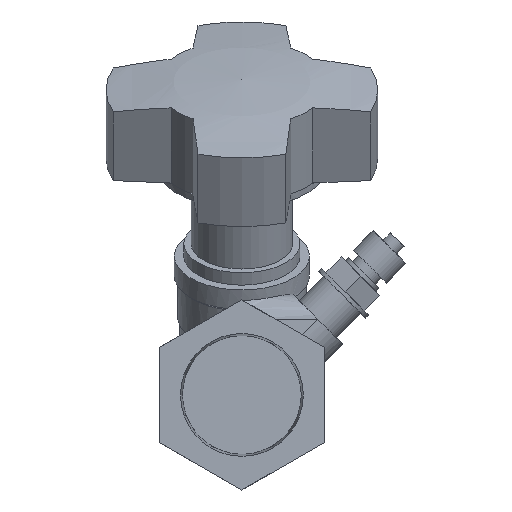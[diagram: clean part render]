
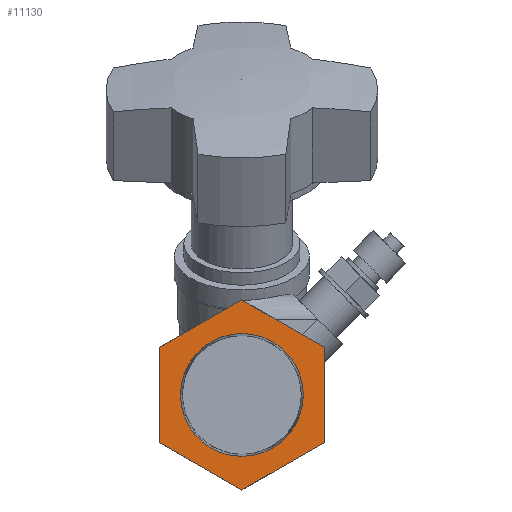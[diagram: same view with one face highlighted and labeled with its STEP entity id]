
A CAD part, left-side view. The second image highlights one B-rep face of the part: STEP entity #11130.
In plain terms, the highlighted planar face has unit normal (-1, 0, 0).
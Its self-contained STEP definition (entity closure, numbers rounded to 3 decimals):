
#9646 = PLANE('',#9647);
#9647 = AXIS2_PLACEMENT_3D('',#9648,#9649,#9650);
#9648 = CARTESIAN_POINT('',(0.,-0.83,1.438));
#9649 = DIRECTION('',(0.,-0.5,0.866));
#9650 = DIRECTION('',(0.,-0.866,-0.5));
#9719 = PLANE('',#9720);
#9720 = AXIS2_PLACEMENT_3D('',#9721,#9722,#9723);
#9721 = CARTESIAN_POINT('',(0.,0.,1.917));
#9722 = DIRECTION('',(0.,0.5,0.866));
#9723 = DIRECTION('',(0.,-0.866,0.5));
#9769 = PLANE('',#9770);
#9770 = AXIS2_PLACEMENT_3D('',#9771,#9772,#9773);
#9771 = CARTESIAN_POINT('',(0.,0.83,1.438));
#9772 = DIRECTION('',(0.,1.,0.));
#9773 = DIRECTION('',(0.,-0.,1.));
#9819 = PLANE('',#9820);
#9820 = AXIS2_PLACEMENT_3D('',#9821,#9822,#9823);
#9821 = CARTESIAN_POINT('',(0.,0.83,0.479));
#9822 = DIRECTION('',(0.,0.5,-0.866));
#9823 = DIRECTION('',(0.,0.866,0.5));
#9869 = PLANE('',#9870);
#9870 = AXIS2_PLACEMENT_3D('',#9871,#9872,#9873);
#9871 = CARTESIAN_POINT('',(0.,0.,0.));
#9872 = DIRECTION('',(0.,-0.5,-0.866));
#9873 = DIRECTION('',(0.,0.866,-0.5));
#9917 = PLANE('',#9918);
#9918 = AXIS2_PLACEMENT_3D('',#9919,#9920,#9921);
#9919 = CARTESIAN_POINT('',(0.,-0.83,0.479));
#9920 = DIRECTION('',(0.,-1.,0.));
#9921 = DIRECTION('',(0.,0.,-1.));
#10311 = VERTEX_POINT('',#10312);
#10312 = CARTESIAN_POINT('',(0.,0.83,0.479));
#10333 = EDGE_CURVE('',#10311,#10334,#10336,.T.);
#10334 = VERTEX_POINT('',#10335);
#10335 = CARTESIAN_POINT('',(0.,0.83,1.438));
#10336 = SURFACE_CURVE('',#10337,(#10341,#10348),.PCURVE_S1.);
#10337 = LINE('',#10338,#10339);
#10338 = CARTESIAN_POINT('',(0.,0.83,0.479));
#10339 = VECTOR('',#10340,1.);
#10340 = DIRECTION('',(0.,0.,1.));
#10341 = PCURVE('',#9769,#10342);
#10342 = DEFINITIONAL_REPRESENTATION('',(#10343),#10347);
#10343 = LINE('',#10344,#10345);
#10344 = CARTESIAN_POINT('',(-0.958,0.));
#10345 = VECTOR('',#10346,1.);
#10346 = DIRECTION('',(1.,0.));
#10347 = ( GEOMETRIC_REPRESENTATION_CONTEXT(2) 
PARAMETRIC_REPRESENTATION_CONTEXT() REPRESENTATION_CONTEXT('2D SPACE',''
  ) );
#10348 = PCURVE('',#10349,#10354);
#10349 = PLANE('',#10350);
#10350 = AXIS2_PLACEMENT_3D('',#10351,#10352,#10353);
#10351 = CARTESIAN_POINT('',(0.,0.,0.958));
#10352 = DIRECTION('',(1.,0.,0.));
#10353 = DIRECTION('',(0.,0.,-1.));
#10354 = DEFINITIONAL_REPRESENTATION('',(#10355),#10359);
#10355 = LINE('',#10356,#10357);
#10356 = CARTESIAN_POINT('',(0.479,0.83));
#10357 = VECTOR('',#10358,1.);
#10358 = DIRECTION('',(-1.,0.));
#10359 = ( GEOMETRIC_REPRESENTATION_CONTEXT(2) 
PARAMETRIC_REPRESENTATION_CONTEXT() REPRESENTATION_CONTEXT('2D SPACE',''
  ) );
#10387 = VERTEX_POINT('',#10388);
#10388 = CARTESIAN_POINT('',(0.,0.,0.));
#10409 = EDGE_CURVE('',#10387,#10311,#10410,.T.);
#10410 = SURFACE_CURVE('',#10411,(#10415,#10422),.PCURVE_S1.);
#10411 = LINE('',#10412,#10413);
#10412 = CARTESIAN_POINT('',(0.,0.,0.));
#10413 = VECTOR('',#10414,1.);
#10414 = DIRECTION('',(0.,0.866,0.5));
#10415 = PCURVE('',#9819,#10416);
#10416 = DEFINITIONAL_REPRESENTATION('',(#10417),#10421);
#10417 = LINE('',#10418,#10419);
#10418 = CARTESIAN_POINT('',(-0.958,0.));
#10419 = VECTOR('',#10420,1.);
#10420 = DIRECTION('',(1.,0.));
#10421 = ( GEOMETRIC_REPRESENTATION_CONTEXT(2) 
PARAMETRIC_REPRESENTATION_CONTEXT() REPRESENTATION_CONTEXT('2D SPACE',''
  ) );
#10422 = PCURVE('',#10349,#10423);
#10423 = DEFINITIONAL_REPRESENTATION('',(#10424),#10428);
#10424 = LINE('',#10425,#10426);
#10425 = CARTESIAN_POINT('',(0.958,0.));
#10426 = VECTOR('',#10427,1.);
#10427 = DIRECTION('',(-0.5,0.866));
#10428 = ( GEOMETRIC_REPRESENTATION_CONTEXT(2) 
PARAMETRIC_REPRESENTATION_CONTEXT() REPRESENTATION_CONTEXT('2D SPACE',''
  ) );
#10436 = VERTEX_POINT('',#10437);
#10437 = CARTESIAN_POINT('',(0.,-0.83,0.479));
#10458 = EDGE_CURVE('',#10436,#10387,#10459,.T.);
#10459 = SURFACE_CURVE('',#10460,(#10464,#10471),.PCURVE_S1.);
#10460 = LINE('',#10461,#10462);
#10461 = CARTESIAN_POINT('',(0.,-0.83,0.479));
#10462 = VECTOR('',#10463,1.);
#10463 = DIRECTION('',(0.,0.866,-0.5));
#10464 = PCURVE('',#9869,#10465);
#10465 = DEFINITIONAL_REPRESENTATION('',(#10466),#10470);
#10466 = LINE('',#10467,#10468);
#10467 = CARTESIAN_POINT('',(-0.958,0.));
#10468 = VECTOR('',#10469,1.);
#10469 = DIRECTION('',(1.,0.));
#10470 = ( GEOMETRIC_REPRESENTATION_CONTEXT(2) 
PARAMETRIC_REPRESENTATION_CONTEXT() REPRESENTATION_CONTEXT('2D SPACE',''
  ) );
#10471 = PCURVE('',#10349,#10472);
#10472 = DEFINITIONAL_REPRESENTATION('',(#10473),#10477);
#10473 = LINE('',#10474,#10475);
#10474 = CARTESIAN_POINT('',(0.479,-0.83));
#10475 = VECTOR('',#10476,1.);
#10476 = DIRECTION('',(0.5,0.866));
#10477 = ( GEOMETRIC_REPRESENTATION_CONTEXT(2) 
PARAMETRIC_REPRESENTATION_CONTEXT() REPRESENTATION_CONTEXT('2D SPACE',''
  ) );
#10777 = CONICAL_SURFACE('',#10778,0.609,0.031);
#10778 = AXIS2_PLACEMENT_3D('',#10779,#10780,#10781);
#10779 = CARTESIAN_POINT('',(39.313,0.,0.958));
#10780 = DIRECTION('',(1.,0.,0.));
#10781 = DIRECTION('',(0.,-1.,0.));
#10792 = EDGE_CURVE('',#10793,#10793,#10795,.T.);
#10793 = VERTEX_POINT('',#10794);
#10794 = CARTESIAN_POINT('',(0.,0.619,
    0.958));
#10795 = SURFACE_CURVE('',#10796,(#10801,#10808),.PCURVE_S1.);
#10796 = CIRCLE('',#10797,0.619);
#10797 = AXIS2_PLACEMENT_3D('',#10798,#10799,#10800);
#10798 = CARTESIAN_POINT('',(0.,0.,0.958));
#10799 = DIRECTION('',(1.,0.,0.));
#10800 = DIRECTION('',(-0.,1.,0.));
#10801 = PCURVE('',#10777,#10802);
#10802 = DEFINITIONAL_REPRESENTATION('',(#10803),#10807);
#10803 = LINE('',#10804,#10805);
#10804 = CARTESIAN_POINT('',(0.,-39.313));
#10805 = VECTOR('',#10806,1.);
#10806 = DIRECTION('',(1.,0.));
#10807 = ( GEOMETRIC_REPRESENTATION_CONTEXT(2) 
PARAMETRIC_REPRESENTATION_CONTEXT() REPRESENTATION_CONTEXT('2D SPACE',''
  ) );
#10808 = PCURVE('',#10349,#10809);
#10809 = DEFINITIONAL_REPRESENTATION('',(#10810),#10814);
#10810 = CIRCLE('',#10811,0.619);
#10811 = AXIS2_PLACEMENT_2D('',#10812,#10813);
#10812 = CARTESIAN_POINT('',(0.,0.));
#10813 = DIRECTION('',(0.,1.));
#10814 = ( GEOMETRIC_REPRESENTATION_CONTEXT(2) 
PARAMETRIC_REPRESENTATION_CONTEXT() REPRESENTATION_CONTEXT('2D SPACE',''
  ) );
#11011 = VERTEX_POINT('',#11012);
#11012 = CARTESIAN_POINT('',(0.,-0.83,1.438));
#11033 = EDGE_CURVE('',#11011,#10436,#11034,.T.);
#11034 = SURFACE_CURVE('',#11035,(#11039,#11046),.PCURVE_S1.);
#11035 = LINE('',#11036,#11037);
#11036 = CARTESIAN_POINT('',(0.,-0.83,1.438));
#11037 = VECTOR('',#11038,1.);
#11038 = DIRECTION('',(0.,0.,-1.));
#11039 = PCURVE('',#9917,#11040);
#11040 = DEFINITIONAL_REPRESENTATION('',(#11041),#11045);
#11041 = LINE('',#11042,#11043);
#11042 = CARTESIAN_POINT('',(-0.958,0.));
#11043 = VECTOR('',#11044,1.);
#11044 = DIRECTION('',(1.,0.));
#11045 = ( GEOMETRIC_REPRESENTATION_CONTEXT(2) 
PARAMETRIC_REPRESENTATION_CONTEXT() REPRESENTATION_CONTEXT('2D SPACE',''
  ) );
#11046 = PCURVE('',#10349,#11047);
#11047 = DEFINITIONAL_REPRESENTATION('',(#11048),#11052);
#11048 = LINE('',#11049,#11050);
#11049 = CARTESIAN_POINT('',(-0.479,-0.83));
#11050 = VECTOR('',#11051,1.);
#11051 = DIRECTION('',(1.,0.));
#11052 = ( GEOMETRIC_REPRESENTATION_CONTEXT(2) 
PARAMETRIC_REPRESENTATION_CONTEXT() REPRESENTATION_CONTEXT('2D SPACE',''
  ) );
#11060 = VERTEX_POINT('',#11061);
#11061 = CARTESIAN_POINT('',(0.,0.,1.917));
#11082 = EDGE_CURVE('',#11060,#11011,#11083,.T.);
#11083 = SURFACE_CURVE('',#11084,(#11088,#11095),.PCURVE_S1.);
#11084 = LINE('',#11085,#11086);
#11085 = CARTESIAN_POINT('',(0.,0.,1.917));
#11086 = VECTOR('',#11087,1.);
#11087 = DIRECTION('',(0.,-0.866,-0.5));
#11088 = PCURVE('',#9646,#11089);
#11089 = DEFINITIONAL_REPRESENTATION('',(#11090),#11094);
#11090 = LINE('',#11091,#11092);
#11091 = CARTESIAN_POINT('',(-0.958,0.));
#11092 = VECTOR('',#11093,1.);
#11093 = DIRECTION('',(1.,0.));
#11094 = ( GEOMETRIC_REPRESENTATION_CONTEXT(2) 
PARAMETRIC_REPRESENTATION_CONTEXT() REPRESENTATION_CONTEXT('2D SPACE',''
  ) );
#11095 = PCURVE('',#10349,#11096);
#11096 = DEFINITIONAL_REPRESENTATION('',(#11097),#11101);
#11097 = LINE('',#11098,#11099);
#11098 = CARTESIAN_POINT('',(-0.958,0.));
#11099 = VECTOR('',#11100,1.);
#11100 = DIRECTION('',(0.5,-0.866));
#11101 = ( GEOMETRIC_REPRESENTATION_CONTEXT(2) 
PARAMETRIC_REPRESENTATION_CONTEXT() REPRESENTATION_CONTEXT('2D SPACE',''
  ) );
#11109 = EDGE_CURVE('',#10334,#11060,#11110,.T.);
#11110 = SURFACE_CURVE('',#11111,(#11115,#11122),.PCURVE_S1.);
#11111 = LINE('',#11112,#11113);
#11112 = CARTESIAN_POINT('',(0.,0.83,1.438));
#11113 = VECTOR('',#11114,1.);
#11114 = DIRECTION('',(0.,-0.866,0.5));
#11115 = PCURVE('',#9719,#11116);
#11116 = DEFINITIONAL_REPRESENTATION('',(#11117),#11121);
#11117 = LINE('',#11118,#11119);
#11118 = CARTESIAN_POINT('',(-0.958,0.));
#11119 = VECTOR('',#11120,1.);
#11120 = DIRECTION('',(1.,0.));
#11121 = ( GEOMETRIC_REPRESENTATION_CONTEXT(2) 
PARAMETRIC_REPRESENTATION_CONTEXT() REPRESENTATION_CONTEXT('2D SPACE',''
  ) );
#11122 = PCURVE('',#10349,#11123);
#11123 = DEFINITIONAL_REPRESENTATION('',(#11124),#11128);
#11124 = LINE('',#11125,#11126);
#11125 = CARTESIAN_POINT('',(-0.479,0.83));
#11126 = VECTOR('',#11127,1.);
#11127 = DIRECTION('',(-0.5,-0.866));
#11128 = ( GEOMETRIC_REPRESENTATION_CONTEXT(2) 
PARAMETRIC_REPRESENTATION_CONTEXT() REPRESENTATION_CONTEXT('2D SPACE',''
  ) );
#11130 = ADVANCED_FACE('',(#11131,#11134),#10349,.F.);
#11131 = FACE_BOUND('',#11132,.T.);
#11132 = EDGE_LOOP('',(#11133));
#11133 = ORIENTED_EDGE('',*,*,#10792,.T.);
#11134 = FACE_BOUND('',#11135,.T.);
#11135 = EDGE_LOOP('',(#11136,#11137,#11138,#11139,#11140,#11141));
#11136 = ORIENTED_EDGE('',*,*,#10458,.F.);
#11137 = ORIENTED_EDGE('',*,*,#11033,.F.);
#11138 = ORIENTED_EDGE('',*,*,#11082,.F.);
#11139 = ORIENTED_EDGE('',*,*,#11109,.F.);
#11140 = ORIENTED_EDGE('',*,*,#10333,.F.);
#11141 = ORIENTED_EDGE('',*,*,#10409,.F.);
